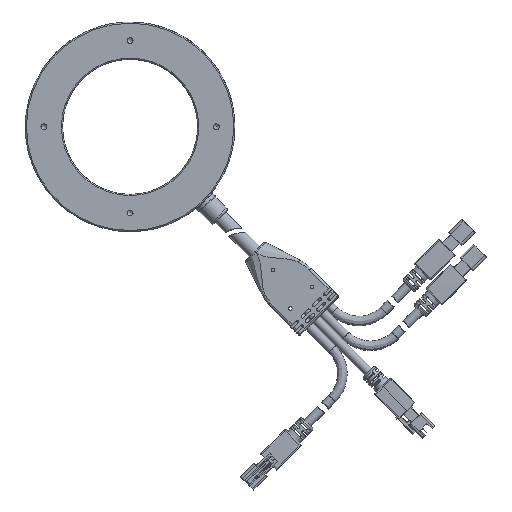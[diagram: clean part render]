
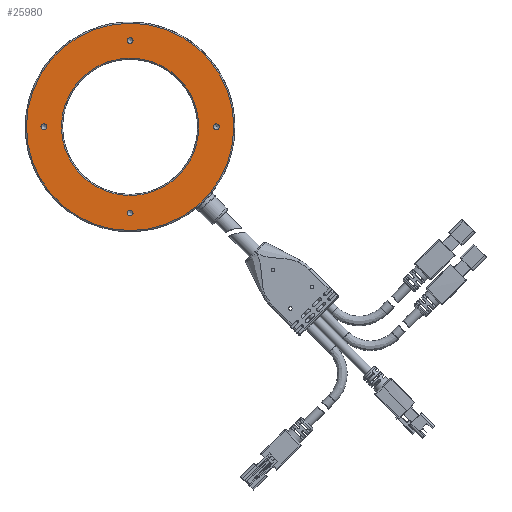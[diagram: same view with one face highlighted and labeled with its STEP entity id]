
A CAD part, front view. The second image highlights one B-rep face of the part: STEP entity #25980.
In plain terms, the highlighted planar face has unit normal (0, -1, 0).
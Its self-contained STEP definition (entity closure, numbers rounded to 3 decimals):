
#635 = EDGE_CURVE ( 'NONE', #27136, #27136, #23668, .T. ) ;
#1846 = CARTESIAN_POINT ( 'NONE',  ( -37., 12.67, -1.25 ) ) ;
#2358 = EDGE_LOOP ( 'NONE', ( #32033 ) ) ;
#2506 = VERTEX_POINT ( 'NONE', #35121 ) ;
#2820 = ORIENTED_EDGE ( 'NONE', *, *, #16675, .F. ) ;
#2948 = DIRECTION ( 'NONE',  ( 0., -1., 0. ) ) ;
#4317 = CARTESIAN_POINT ( 'NONE',  ( 0., 12.67, 0. ) ) ;
#4562 = CIRCLE ( 'NONE', #30762, 1.25 ) ;
#4651 = AXIS2_PLACEMENT_3D ( 'NONE', #39292, #18137, #24097 ) ;
#4863 = VERTEX_POINT ( 'NONE', #8701 ) ;
#5262 = ORIENTED_EDGE ( 'NONE', *, *, #23619, .T. ) ;
#5554 = DIRECTION ( 'NONE',  ( 0., 1., 0. ) ) ;
#6988 = DIRECTION ( 'NONE',  ( 0., 0., -1. ) ) ;
#8292 = CARTESIAN_POINT ( 'NONE',  ( 0., 12.67, 35.75 ) ) ;
#8443 = EDGE_LOOP ( 'NONE', ( #2820 ) ) ;
#8506 = DIRECTION ( 'NONE',  ( 0., -1., 0. ) ) ;
#8588 = FACE_BOUND ( 'NONE', #2358, .T. ) ;
#8701 = CARTESIAN_POINT ( 'NONE',  ( 0., 12.67, 44.5 ) ) ;
#8791 = DIRECTION ( 'NONE',  ( 0., 0., -1. ) ) ;
#9564 = FACE_BOUND ( 'NONE', #27131, .T. ) ;
#9956 = EDGE_CURVE ( 'NONE', #34764, #34764, #10188, .T. ) ;
#10188 = CIRCLE ( 'NONE', #27845, 1.25 ) ;
#10969 = FACE_BOUND ( 'NONE', #8443, .T. ) ;
#11418 = AXIS2_PLACEMENT_3D ( 'NONE', #4317, #34668, #16452 ) ;
#11438 = CIRCLE ( 'NONE', #36576, 44.5 ) ;
#12184 = CARTESIAN_POINT ( 'NONE',  ( 0., 12.67, -37. ) ) ;
#14457 = CARTESIAN_POINT ( 'NONE',  ( -37., 12.67, 0. ) ) ;
#15237 = VERTEX_POINT ( 'NONE', #8292 ) ;
#15561 = EDGE_CURVE ( 'NONE', #32384, #32384, #34559, .T. ) ;
#16452 = DIRECTION ( 'NONE',  ( 0., 0., 1. ) ) ;
#16675 = EDGE_CURVE ( 'NONE', #2506, #2506, #4562, .T. ) ;
#17585 = CARTESIAN_POINT ( 'NONE',  ( -29., 12.67, 0. ) ) ;
#17599 = FACE_OUTER_BOUND ( 'NONE', #31242, .T. ) ;
#18137 = DIRECTION ( 'NONE',  ( 0., -1., 0. ) ) ;
#18254 = EDGE_CURVE ( 'NONE', #15237, #15237, #33292, .T. ) ;
#18511 = ORIENTED_EDGE ( 'NONE', *, *, #9956, .F. ) ;
#20095 = CARTESIAN_POINT ( 'NONE',  ( 0., 12.67, 29.5 ) ) ;
#20239 = PLANE ( 'NONE',  #28429 ) ;
#22093 = CARTESIAN_POINT ( 'NONE',  ( 37., 12.67, 0. ) ) ;
#22625 = ORIENTED_EDGE ( 'NONE', *, *, #18254, .F. ) ;
#23619 = EDGE_CURVE ( 'NONE', #4863, #4863, #11438, .T. ) ;
#23668 = CIRCLE ( 'NONE', #36769, 1.25 ) ;
#24097 = DIRECTION ( 'NONE',  ( 0., 0., -1. ) ) ;
#24149 = EDGE_LOOP ( 'NONE', ( #28898 ) ) ;
#24248 = CARTESIAN_POINT ( 'NONE',  ( 0., 12.67, 0. ) ) ;
#24379 = DIRECTION ( 'NONE',  ( 0., 0., 1. ) ) ;
#24713 = FACE_BOUND ( 'NONE', #27111, .T. ) ;
#25019 = DIRECTION ( 'NONE',  ( 0., -1., 0. ) ) ;
#25980 = ADVANCED_FACE ( 'NONE', ( #8588, #17599, #9564, #24713, #29923, #10969 ), #20239, .F. ) ;
#27111 = EDGE_LOOP ( 'NONE', ( #22625 ) ) ;
#27131 = EDGE_LOOP ( 'NONE', ( #18511 ) ) ;
#27136 = VERTEX_POINT ( 'NONE', #34866 ) ;
#27845 = AXIS2_PLACEMENT_3D ( 'NONE', #14457, #8506, #8791 ) ;
#28429 = AXIS2_PLACEMENT_3D ( 'NONE', #17585, #5554, #38350 ) ;
#28898 = ORIENTED_EDGE ( 'NONE', *, *, #635, .F. ) ;
#29923 = FACE_BOUND ( 'NONE', #24149, .T. ) ;
#30222 = DIRECTION ( 'NONE',  ( 0., -1., 0. ) ) ;
#30598 = DIRECTION ( 'NONE',  ( 0., 0., -1. ) ) ;
#30762 = AXIS2_PLACEMENT_3D ( 'NONE', #12184, #2948, #30598 ) ;
#31242 = EDGE_LOOP ( 'NONE', ( #5262 ) ) ;
#32033 = ORIENTED_EDGE ( 'NONE', *, *, #15561, .T. ) ;
#32384 = VERTEX_POINT ( 'NONE', #20095 ) ;
#33292 = CIRCLE ( 'NONE', #4651, 1.25 ) ;
#34559 = CIRCLE ( 'NONE', #11418, 29.5 ) ;
#34668 = DIRECTION ( 'NONE',  ( 0., 1., 0. ) ) ;
#34764 = VERTEX_POINT ( 'NONE', #1846 ) ;
#34866 = CARTESIAN_POINT ( 'NONE',  ( 37., 12.67, -1.25 ) ) ;
#35121 = CARTESIAN_POINT ( 'NONE',  ( 0., 12.67, -38.25 ) ) ;
#36576 = AXIS2_PLACEMENT_3D ( 'NONE', #24248, #30222, #24379 ) ;
#36769 = AXIS2_PLACEMENT_3D ( 'NONE', #22093, #25019, #6988 ) ;
#38350 = DIRECTION ( 'NONE',  ( 0., 0., 1. ) ) ;
#39292 = CARTESIAN_POINT ( 'NONE',  ( 0., 12.67, 37. ) ) ;
